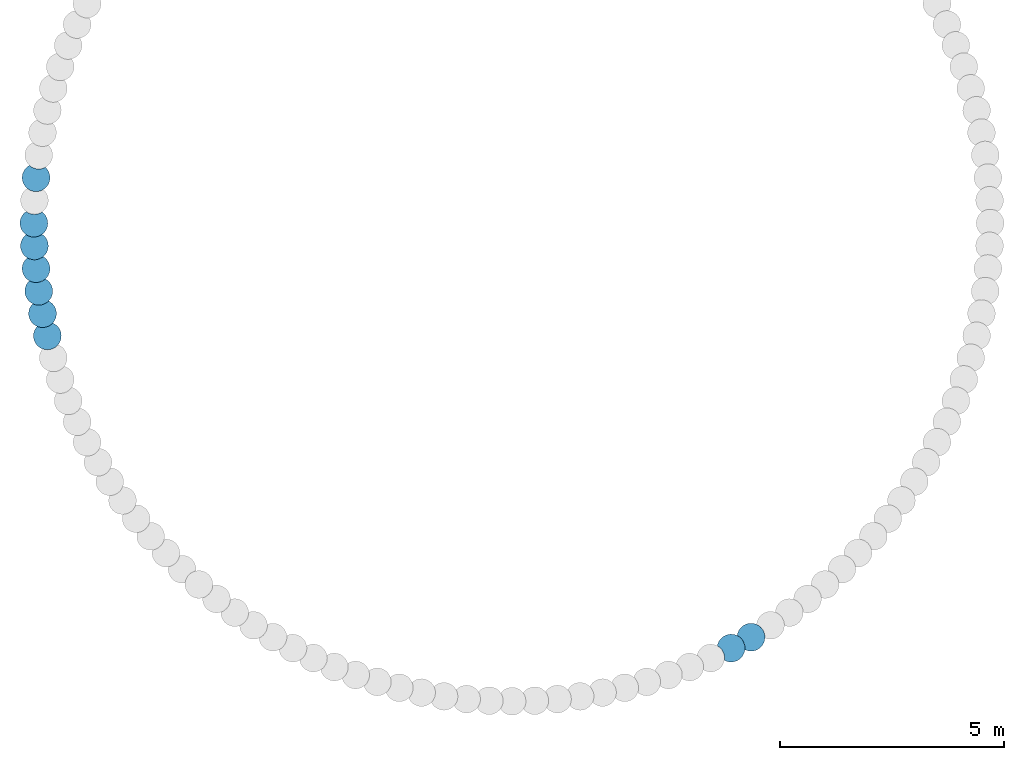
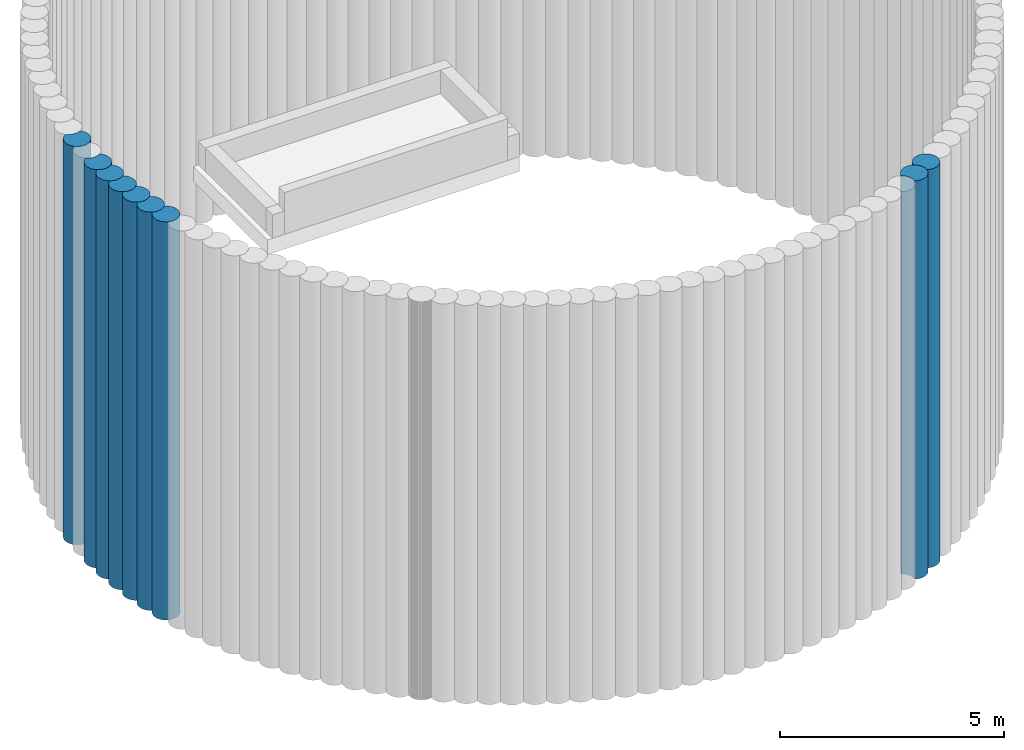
# One storey, part 5 of 16: 9 slabs.
"""IFC2X3 building model written with IfcOpenShell, lengths in centimetres."""

from ifc_helpers import new_model, entity, si_unit, converted_unit, derived_unit, direction, frame, frame_2d, origin, place, context, subcontext, project, spatial, polyline, circle_curve, parameter, trimmed, segment, composite_curve, outline, extrude, material, element, save


model = new_model("IFC2X3")

# Units and contexts
model_context = context("Model", 3, precision=0.001, world=origin(), true_north=direction((6.12303176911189e-17, 1.0)))
body_context = subcontext(model_context, "Body", "Model", "MODEL_VIEW")
ifc_project = project(units=[si_unit("LENGTHUNIT", "METRE", prefix="CENTI"), si_unit("AREAUNIT", "SQUARE_METRE"), si_unit("VOLUMEUNIT", "CUBIC_METRE"), converted_unit("PLANEANGLEUNIT", "DEGREE", entity("IfcRatioMeasure", 0.0174532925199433), si_unit("PLANEANGLEUNIT", "RADIAN"), dimensions=[0, 0, 0, 0, 0, 0, 0]), si_unit("MASSUNIT", "GRAM", prefix="KILO"), derived_unit("MASSDENSITYUNIT", [(si_unit("MASSUNIT", "GRAM", prefix="KILO"), 1), (si_unit("LENGTHUNIT", "METRE"), -3)]), si_unit("TIMEUNIT", "SECOND"), si_unit("FREQUENCYUNIT", "HERTZ"), si_unit("THERMODYNAMICTEMPERATUREUNIT", "DEGREE_CELSIUS"), derived_unit("THERMALTRANSMITTANCEUNIT", [(si_unit("MASSUNIT", "GRAM", prefix="KILO"), 1), (si_unit("THERMODYNAMICTEMPERATUREUNIT", "KELVIN"), -1), (si_unit("TIMEUNIT", "SECOND"), -3)]), derived_unit("VOLUMETRICFLOWRATEUNIT", [(si_unit("LENGTHUNIT", "METRE"), 3), (si_unit("TIMEUNIT", "SECOND"), -1)]), si_unit("ELECTRICCURRENTUNIT", "AMPERE"), si_unit("ELECTRICVOLTAGEUNIT", "VOLT"), si_unit("POWERUNIT", "WATT"), si_unit("FORCEUNIT", "NEWTON", prefix="KILO"), si_unit("ILLUMINANCEUNIT", "LUX"), si_unit("LUMINOUSFLUXUNIT", "LUMEN"), si_unit("LUMINOUSINTENSITYUNIT", "CANDELA"), derived_unit("USERDEFINED", [(si_unit("MASSUNIT", "GRAM", prefix="KILO"), -1), (si_unit("LENGTHUNIT", "METRE"), -2), (si_unit("TIMEUNIT", "SECOND"), 3), (si_unit("LUMINOUSFLUXUNIT", "LUMEN"), 1)]), derived_unit("LINEARVELOCITYUNIT", [(si_unit("LENGTHUNIT", "METRE"), 1), (si_unit("TIMEUNIT", "SECOND"), -1)]), si_unit("PRESSUREUNIT", "PASCAL"), derived_unit("USERDEFINED", [(si_unit("LENGTHUNIT", "METRE"), -2), (si_unit("MASSUNIT", "GRAM", prefix="KILO"), 1), (si_unit("TIMEUNIT", "SECOND"), -2)])], contexts=[model_context])

# Site, building, storey
site_placement = place(None, origin())
site = spatial("IfcSite", under=ifc_project, at=site_placement, Name="Default", CompositionType="ELEMENT")
building_placement = place(site_placement, origin())
building = spatial("IfcBuilding", under=site, at=building_placement, CompositionType="ELEMENT")
storey_placement = place(building_placement, frame((0.0, 0.0, -984.0)))
storey = spatial("IfcBuildingStorey", under=building, at=storey_placement, Name="Niveau Fond de fosse", CompositionType="ELEMENT", Elevation=-984.000000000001)

# Slabs
ifc_material = material(Name="Maçonnerie - Béton coulé sur place")
slab_1_placement = place(storey_placement, origin())
element("IfcSlab", 1, at=slab_1_placement, inside=storey, material=ifc_material, Name="Pieu béton - JBTP:600mm 2", ObjectType="Pieu béton - JBTP:600mm 2", PredefinedType="BASESLAB", context=body_context, shape_type="SweptSolid", body=[
    extrude(outline(composite_curve([segment(trimmed(circle_curve(frame_2d((1.18354648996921, -14.7318661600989), x_axis=(1.0, 0.0)), 30.9999999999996), [parameter(180.0)], [parameter(207.444291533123)], True, "PARAMETER"), True, "CONTINUOUS"), segment(trimmed(circle_curve(frame_2d((-22.2236636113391, -59.7464676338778), x_axis=(0.998867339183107, -0.0475819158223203)), 30.9999999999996), [parameter(30.1715642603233)], [parameter(100.334884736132)], True, "PARAMETER"), False, "CONTINUOUS"), segment(trimmed(circle_curve(frame_2d((1.18354648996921, -14.7318661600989), x_axis=(1.0, 0.0)), 30.9999999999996), [parameter(277.607612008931)], [parameter(4.07110999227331e-13)], True, "PARAMETER"), True, "CONTINUOUS"), segment(polyline([(32.1835464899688, -14.731866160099), (31.706841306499, -9.31628922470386)]), True, "CONTINUOUS"), segment(polyline([(31.706841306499, -9.31628922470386), (30.2921459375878, -4.069341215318)]), True, "CONTINUOUS"), segment(polyline([(30.2921459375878, -4.069341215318), (27.9815446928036, 0.850722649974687)]), True, "CONTINUOUS"), segment(polyline([(27.9815446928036, 0.850722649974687), (24.8625540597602, 5.27574740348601)]), True, "CONTINUOUS"), segment(polyline([(24.8625540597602, 5.27574740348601), (21.0196407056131, 9.09100869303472)]), True, "CONTINUOUS"), segment(polyline([(21.0196407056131, 9.09100869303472), (16.5713553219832, 12.1793831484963)]), True, "CONTINUOUS"), segment(polyline([(16.5713553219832, 12.1793831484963), (11.6531207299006, 14.4466878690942)]), True, "CONTINUOUS"), segment(polyline([(11.6531207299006, 14.4466878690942), (6.41465294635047, 15.8235838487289)]), True, "CONTINUOUS"), segment(polyline([(6.41465294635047, 15.8235838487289), (1.01547753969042, 16.2676782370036)]), True, "CONTINUOUS"), segment(polyline([(1.01547753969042, 16.2676782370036), (-4.38028118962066, 15.7646561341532)]), True, "CONTINUOUS"), segment(polyline([(-4.38028118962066, 15.7646561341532), (-9.56967916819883, 14.3433490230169)]), True, "CONTINUOUS"), segment(polyline([(-9.56967916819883, 14.3433490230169), (-14.4353628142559, 12.0459170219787)]), True, "CONTINUOUS"), segment(polyline([(-14.4353628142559, 12.0459170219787), (-18.8300295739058, 8.94210209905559)]), True, "CONTINUOUS"), segment(polyline([(-18.8300295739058, 8.94210209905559), (-22.6217091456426, 5.12536940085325)]), True, "CONTINUOUS"), segment(polyline([(-22.6217091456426, 5.12536940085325), (-25.6964633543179, 0.710448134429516)]), True, "CONTINUOUS"), segment(polyline([(-25.6964633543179, 0.710448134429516), (-27.9617477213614, -4.17005640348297)]), True, "CONTINUOUS"), segment(polyline([(-27.9617477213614, -4.17005640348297), (-29.3490361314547, -9.3689007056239)]), True, "CONTINUOUS"), segment(polyline([(-29.3490361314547, -9.3689007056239), (-29.8164535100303, -14.7318661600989)]), True, "CONTINUOUS")], self_intersect=False)), frame((496.306493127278, -934.968234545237, -300.0), z_axis=(0.0, 0.0, 1.0), x_axis=(0.802641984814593, -0.596461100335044, 0.0)), (0.0, 0.0, 1.0), 1084.0),
])
slab_2_placement = place(storey_placement, origin())
element("IfcSlab", 2, at=slab_2_placement, inside=storey, material=ifc_material, Name="Pieu béton - JBTP:600mm 2", ObjectType="Pieu béton - JBTP:600mm 2", PredefinedType="BASESLAB", context=body_context, shape_type="SweptSolid", body=[
    extrude(outline(composite_curve([segment(trimmed(circle_curve(frame_2d((1.18354648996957, -14.731866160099), x_axis=(1.0, 0.0)), 30.9999999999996), [parameter(180.0)], [parameter(207.444291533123)], True, "PARAMETER"), True, "CONTINUOUS"), segment(trimmed(circle_curve(frame_2d((-22.2236636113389, -59.7464676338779), x_axis=(0.998867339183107, -0.0475819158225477)), 30.9999999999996), [parameter(30.1715642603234)], [parameter(100.334884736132)], True, "PARAMETER"), False, "CONTINUOUS"), segment(trimmed(circle_curve(frame_2d((1.18354648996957, -14.731866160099), x_axis=(1.0, 0.0)), 30.9999999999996), [parameter(277.607612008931)], [parameter(4.07110999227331e-13)], True, "PARAMETER"), True, "CONTINUOUS"), segment(polyline([(32.183546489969, -14.731866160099), (31.7068413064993, -9.31628922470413)]), True, "CONTINUOUS"), segment(polyline([(31.7068413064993, -9.31628922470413), (30.2921459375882, -4.06934121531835)]), True, "CONTINUOUS"), segment(polyline([(30.2921459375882, -4.06934121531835), (27.9815446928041, 0.850722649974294)]), True, "CONTINUOUS"), segment(polyline([(27.9815446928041, 0.850722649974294), (24.8625540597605, 5.27574740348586)]), True, "CONTINUOUS"), segment(polyline([(24.8625540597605, 5.27574740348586), (21.0196407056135, 9.09100869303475)]), True, "CONTINUOUS"), segment(polyline([(21.0196407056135, 9.09100869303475), (16.5713553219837, 12.1793831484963)]), True, "CONTINUOUS"), segment(polyline([(16.5713553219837, 12.1793831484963), (11.6531207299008, 14.4466878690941)]), True, "CONTINUOUS"), segment(polyline([(11.6531207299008, 14.4466878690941), (6.41465294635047, 15.8235838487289)]), True, "CONTINUOUS"), segment(polyline([(6.41465294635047, 15.8235838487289), (1.01547753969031, 16.2676782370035)]), True, "CONTINUOUS"), segment(polyline([(1.01547753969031, 16.2676782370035), (-4.38028118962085, 15.764656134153)]), True, "CONTINUOUS"), segment(polyline([(-4.38028118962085, 15.764656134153), (-9.56967916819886, 14.3433490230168)]), True, "CONTINUOUS"), segment(polyline([(-9.56967916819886, 14.3433490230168), (-14.4353628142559, 12.0459170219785)]), True, "CONTINUOUS"), segment(polyline([(-14.4353628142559, 12.0459170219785), (-18.8300295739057, 8.94210209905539)]), True, "CONTINUOUS"), segment(polyline([(-18.8300295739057, 8.94210209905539), (-22.6217091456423, 5.12536940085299)]), True, "CONTINUOUS"), segment(polyline([(-22.6217091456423, 5.12536940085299), (-25.6964633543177, 0.710448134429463)]), True, "CONTINUOUS"), segment(polyline([(-25.6964633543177, 0.710448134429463), (-27.9617477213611, -4.17005640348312)]), True, "CONTINUOUS"), segment(polyline([(-27.9617477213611, -4.17005640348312), (-29.3490361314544, -9.36890070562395)]), True, "CONTINUOUS"), segment(polyline([(-29.3490361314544, -9.36890070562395), (-29.8164535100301, -14.7318661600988)]), True, "CONTINUOUS")], self_intersect=False)), frame((540.231926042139, -910.294018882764, -300.0), z_axis=(0.0, 0.0, 1.0), x_axis=(0.83011362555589, -0.557594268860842, 0.0)), (0.0, 0.0, 1.0), 1084.0),
])
slab_3_placement = place(storey_placement, origin())
element("IfcSlab", 3, at=slab_3_placement, inside=storey, material=ifc_material, Name="Pieu béton - JBTP:600mm 2", ObjectType="Pieu béton - JBTP:600mm 2", PredefinedType="BASESLAB", context=body_context, shape_type="SweptSolid", body=[
    extrude(outline(composite_curve([segment(trimmed(circle_curve(frame_2d((1.18354648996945, -14.7318661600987), x_axis=(1.0, 0.0)), 30.9999999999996), [parameter(180.0)], [parameter(207.444291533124)], True, "PARAMETER"), True, "CONTINUOUS"), segment(trimmed(circle_curve(frame_2d((-22.2236636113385, -59.7464676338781), x_axis=(0.998867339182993, -0.0475819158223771)), 30.9999999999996), [parameter(30.1715642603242)], [parameter(100.334884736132)], True, "PARAMETER"), False, "CONTINUOUS"), segment(trimmed(circle_curve(frame_2d((1.18354648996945, -14.7318661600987), x_axis=(1.0, 0.0)), 30.9999999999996), [parameter(277.607612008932)], [parameter(4.07110999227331e-13)], True, "PARAMETER"), True, "CONTINUOUS"), segment(polyline([(32.183546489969, -14.7318661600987), (31.7068413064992, -9.31628922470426)]), True, "CONTINUOUS"), segment(polyline([(31.7068413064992, -9.31628922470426), (30.2921459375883, -4.06934121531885)]), True, "CONTINUOUS"), segment(polyline([(30.2921459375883, -4.06934121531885), (27.9815446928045, 0.850722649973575)]), True, "CONTINUOUS"), segment(polyline([(27.9815446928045, 0.850722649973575), (24.8625540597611, 5.27574740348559)]), True, "CONTINUOUS"), segment(polyline([(24.8625540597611, 5.27574740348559), (21.0196407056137, 9.09100869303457)]), True, "CONTINUOUS"), segment(polyline([(21.0196407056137, 9.09100869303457), (16.5713553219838, 12.1793831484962)]), True, "CONTINUOUS"), segment(polyline([(16.5713553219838, 12.1793831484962), (11.6531207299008, 14.4466878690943)]), True, "CONTINUOUS"), segment(polyline([(11.6531207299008, 14.4466878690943), (6.41465294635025, 15.8235838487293)]), True, "CONTINUOUS"), segment(polyline([(6.41465294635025, 15.8235838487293), (1.01547753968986, 16.2676782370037)]), True, "CONTINUOUS"), segment(polyline([(1.01547753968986, 16.2676782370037), (-4.38028118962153, 15.7646561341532)]), True, "CONTINUOUS"), segment(polyline([(-4.38028118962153, 15.7646561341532), (-9.56967916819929, 14.3433490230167)]), True, "CONTINUOUS"), segment(polyline([(-9.56967916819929, 14.3433490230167), (-14.4353628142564, 12.0459170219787)]), True, "CONTINUOUS"), segment(polyline([(-14.4353628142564, 12.0459170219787), (-18.8300295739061, 8.94210209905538)]), True, "CONTINUOUS"), segment(polyline([(-18.8300295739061, 8.94210209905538), (-22.6217091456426, 5.12536940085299)]), True, "CONTINUOUS"), segment(polyline([(-22.6217091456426, 5.12536940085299), (-25.696463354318, 0.710448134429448)]), True, "CONTINUOUS"), segment(polyline([(-25.696463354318, 0.710448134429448), (-27.9617477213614, -4.17005640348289)]), True, "CONTINUOUS"), segment(polyline([(-27.9617477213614, -4.17005640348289), (-29.3490361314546, -9.36890070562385)]), True, "CONTINUOUS"), segment(polyline([(-29.3490361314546, -9.36890070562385), (-29.8164535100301, -14.7318661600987)]), True, "CONTINUOUS")], self_intersect=False)), frame((-1054.86887853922, 87.962400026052, -300.0), z_axis=(0.0, 0.0, 1.0), x_axis=(-0.935716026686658, -0.352754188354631, 0.0)), (0.0, 0.0, 1.0), 1084.0),
])
slab_4_placement = place(storey_placement, origin())
element("IfcSlab", 4, at=slab_4_placement, inside=storey, material=ifc_material, Name="Pieu béton - JBTP:600mm 2", ObjectType="Pieu béton - JBTP:600mm 2", PredefinedType="BASESLAB", context=body_context, shape_type="SweptSolid", body=[
    extrude(outline(composite_curve([segment(trimmed(circle_curve(frame_2d((1.18354648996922, -14.7318661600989), x_axis=(1.0, 0.0)), 30.9999999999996), [parameter(180.0)], [parameter(207.444291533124)], True, "PARAMETER"), True, "CONTINUOUS"), segment(trimmed(circle_curve(frame_2d((-22.2236636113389, -59.7464676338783), x_axis=(0.998867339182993, -0.047581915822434)), 30.9999999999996), [parameter(30.1715642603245)], [parameter(100.334884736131)], True, "PARAMETER"), False, "CONTINUOUS"), segment(trimmed(circle_curve(frame_2d((1.18354648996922, -14.7318661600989), x_axis=(1.0, 0.0)), 30.9999999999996), [parameter(277.607612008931)], [parameter(4.07110999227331e-13)], True, "PARAMETER"), True, "CONTINUOUS"), segment(polyline([(32.1835464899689, -14.7318661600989), (31.706841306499, -9.31628922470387)]), True, "CONTINUOUS"), segment(polyline([(31.706841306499, -9.31628922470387), (30.292145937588, -4.06934121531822)]), True, "CONTINUOUS"), segment(polyline([(30.292145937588, -4.06934121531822), (27.9815446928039, 0.850722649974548)]), True, "CONTINUOUS"), segment(polyline([(27.9815446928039, 0.850722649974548), (24.8625540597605, 5.27574740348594)]), True, "CONTINUOUS"), segment(polyline([(24.8625540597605, 5.27574740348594), (21.0196407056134, 9.0910086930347)]), True, "CONTINUOUS"), segment(polyline([(21.0196407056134, 9.0910086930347), (16.5713553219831, 12.1793831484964)]), True, "CONTINUOUS"), segment(polyline([(16.5713553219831, 12.1793831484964), (11.6531207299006, 14.4466878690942)]), True, "CONTINUOUS"), segment(polyline([(11.6531207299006, 14.4466878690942), (6.41465294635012, 15.823583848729)]), True, "CONTINUOUS"), segment(polyline([(6.41465294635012, 15.823583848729), (1.01547753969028, 16.2676782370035)]), True, "CONTINUOUS"), segment(polyline([(1.01547753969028, 16.2676782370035), (-4.38028118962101, 15.7646561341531)]), True, "CONTINUOUS"), segment(polyline([(-4.38028118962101, 15.7646561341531), (-9.5696791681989, 14.3433490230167)]), True, "CONTINUOUS"), segment(polyline([(-9.5696791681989, 14.3433490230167), (-14.4353628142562, 12.0459170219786)]), True, "CONTINUOUS"), segment(polyline([(-14.4353628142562, 12.0459170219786), (-18.8300295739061, 8.94210209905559)]), True, "CONTINUOUS"), segment(polyline([(-18.8300295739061, 8.94210209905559), (-22.6217091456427, 5.12536940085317)]), True, "CONTINUOUS"), segment(polyline([(-22.6217091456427, 5.12536940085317), (-25.6964633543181, 0.710448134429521)]), True, "CONTINUOUS"), segment(polyline([(-25.6964633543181, 0.710448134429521), (-27.9617477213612, -4.17005640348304)]), True, "CONTINUOUS"), segment(polyline([(-27.9617477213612, -4.17005640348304), (-29.3490361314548, -9.36890070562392)]), True, "CONTINUOUS"), segment(polyline([(-29.3490361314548, -9.36890070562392), (-29.8164535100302, -14.7318661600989)]), True, "CONTINUOUS")], self_intersect=False)), frame((-1058.453708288, -12.7075623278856, -300.0), z_axis=(0.0, 0.0, 1.0), x_axis=(-0.897947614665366, -0.440102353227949, 0.0)), (0.0, 0.0, 1.0), 1084.0),
])
slab_5_placement = place(storey_placement, origin())
element("IfcSlab", 5, at=slab_5_placement, inside=storey, material=ifc_material, Name="Pieu béton - JBTP:600mm 2", ObjectType="Pieu béton - JBTP:600mm 2", PredefinedType="BASESLAB", context=body_context, shape_type="SweptSolid", body=[
    extrude(outline(composite_curve([segment(trimmed(circle_curve(frame_2d((1.18354648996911, -14.731866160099), x_axis=(1.0, 0.0)), 30.9999999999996), [parameter(180.0)], [parameter(207.444291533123)], True, "PARAMETER"), True, "CONTINUOUS"), segment(trimmed(circle_curve(frame_2d((-22.223663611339, -59.7464676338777), x_axis=(0.998867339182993, -0.047581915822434)), 30.9999999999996), [parameter(30.1715642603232)], [parameter(100.334884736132)], True, "PARAMETER"), False, "CONTINUOUS"), segment(trimmed(circle_curve(frame_2d((1.18354648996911, -14.731866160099), x_axis=(1.0, 0.0)), 30.9999999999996), [parameter(277.607612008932)], [parameter(4.07110999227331e-13)], True, "PARAMETER"), True, "CONTINUOUS"), segment(polyline([(32.1835464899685, -14.7318661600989), (31.7068413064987, -9.31628922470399)]), True, "CONTINUOUS"), segment(polyline([(31.7068413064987, -9.31628922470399), (30.2921459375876, -4.06934121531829)]), True, "CONTINUOUS"), segment(polyline([(30.2921459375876, -4.06934121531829), (27.9815446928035, 0.850722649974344)]), True, "CONTINUOUS"), segment(polyline([(27.9815446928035, 0.850722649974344), (24.8625540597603, 5.27574740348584)]), True, "CONTINUOUS"), segment(polyline([(24.8625540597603, 5.27574740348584), (21.0196407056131, 9.09100869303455)]), True, "CONTINUOUS"), segment(polyline([(21.0196407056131, 9.09100869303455), (16.5713553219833, 12.1793831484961)]), True, "CONTINUOUS"), segment(polyline([(16.5713553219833, 12.1793831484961), (11.6531207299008, 14.446687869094)]), True, "CONTINUOUS"), segment(polyline([(11.6531207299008, 14.446687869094), (6.41465294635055, 15.8235838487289)]), True, "CONTINUOUS"), segment(polyline([(6.41465294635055, 15.8235838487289), (1.01547753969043, 16.2676782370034)]), True, "CONTINUOUS"), segment(polyline([(1.01547753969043, 16.2676782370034), (-4.3802811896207, 15.7646561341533)]), True, "CONTINUOUS"), segment(polyline([(-4.3802811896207, 15.7646561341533), (-9.56967916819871, 14.3433490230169)]), True, "CONTINUOUS"), segment(polyline([(-9.56967916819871, 14.3433490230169), (-14.4353628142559, 12.0459170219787)]), True, "CONTINUOUS"), segment(polyline([(-14.4353628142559, 12.0459170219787), (-18.8300295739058, 8.94210209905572)]), True, "CONTINUOUS"), segment(polyline([(-18.8300295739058, 8.94210209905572), (-22.6217091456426, 5.12536940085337)]), True, "CONTINUOUS"), segment(polyline([(-22.6217091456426, 5.12536940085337), (-25.6964633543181, 0.710448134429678)]), True, "CONTINUOUS"), segment(polyline([(-25.6964633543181, 0.710448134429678), (-27.9617477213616, -4.17005640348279)]), True, "CONTINUOUS"), segment(polyline([(-27.9617477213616, -4.17005640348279), (-29.3490361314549, -9.36890070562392)]), True, "CONTINUOUS"), segment(polyline([(-29.3490361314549, -9.36890070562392), (-29.8164535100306, -14.7318661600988)]), True, "CONTINUOUS")], self_intersect=False)), frame((-1056.65018908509, -63.0564242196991, -300.0), z_axis=(0.0, 0.0, 1.0), x_axis=(-0.875989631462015, -0.482329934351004, 0.0)), (0.0, 0.0, 1.0), 1084.0),
])
slab_6_placement = place(storey_placement, origin())
element("IfcSlab", 6, at=slab_6_placement, inside=storey, material=ifc_material, Name="Pieu béton - JBTP:600mm 2", ObjectType="Pieu béton - JBTP:600mm 2", PredefinedType="BASESLAB", context=body_context, shape_type="SweptSolid", body=[
    extrude(outline(composite_curve([segment(trimmed(circle_curve(frame_2d((1.18354648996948, -14.7318661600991), x_axis=(1.0, 0.0)), 30.9999999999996), [parameter(180.0)], [parameter(207.444291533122)], True, "PARAMETER"), True, "CONTINUOUS"), segment(trimmed(circle_curve(frame_2d((-22.2236636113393, -59.7464676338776), x_axis=(0.998867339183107, -0.0475819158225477)), 30.9999999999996), [parameter(30.1715642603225)], [parameter(100.334884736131)], True, "PARAMETER"), False, "CONTINUOUS"), segment(trimmed(circle_curve(frame_2d((1.18354648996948, -14.7318661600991), x_axis=(1.0, 0.0)), 30.9999999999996), [parameter(277.607612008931)], [parameter(4.07110999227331e-13)], True, "PARAMETER"), True, "CONTINUOUS"), segment(polyline([(32.183546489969, -14.7318661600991), (31.7068413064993, -9.31628922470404)]), True, "CONTINUOUS"), segment(polyline([(31.7068413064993, -9.31628922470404), (30.2921459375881, -4.06934121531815)]), True, "CONTINUOUS"), segment(polyline([(30.2921459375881, -4.06934121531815), (27.9815446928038, 0.850722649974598)]), True, "CONTINUOUS"), segment(polyline([(27.9815446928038, 0.850722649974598), (24.8625540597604, 5.275747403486)]), True, "CONTINUOUS"), segment(polyline([(24.8625540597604, 5.275747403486), (21.0196407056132, 9.09100869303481)]), True, "CONTINUOUS"), segment(polyline([(21.0196407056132, 9.09100869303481), (16.5713553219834, 12.1793831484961)]), True, "CONTINUOUS"), segment(polyline([(16.5713553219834, 12.1793831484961), (11.6531207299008, 14.4466878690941)]), True, "CONTINUOUS"), segment(polyline([(11.6531207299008, 14.4466878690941), (6.41465294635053, 15.8235838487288)]), True, "CONTINUOUS"), segment(polyline([(6.41465294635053, 15.8235838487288), (1.01547753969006, 16.2676782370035)]), True, "CONTINUOUS"), segment(polyline([(1.01547753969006, 16.2676782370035), (-4.38028118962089, 15.7646561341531)]), True, "CONTINUOUS"), segment(polyline([(-4.38028118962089, 15.7646561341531), (-9.56967916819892, 14.3433490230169)]), True, "CONTINUOUS"), segment(polyline([(-9.56967916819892, 14.3433490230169), (-14.4353628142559, 12.0459170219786)]), True, "CONTINUOUS"), segment(polyline([(-14.4353628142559, 12.0459170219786), (-18.8300295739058, 8.94210209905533)]), True, "CONTINUOUS"), segment(polyline([(-18.8300295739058, 8.94210209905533), (-22.6217091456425, 5.12536940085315)]), True, "CONTINUOUS"), segment(polyline([(-22.6217091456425, 5.12536940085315), (-25.6964633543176, 0.710448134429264)]), True, "CONTINUOUS"), segment(polyline([(-25.6964633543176, 0.710448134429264), (-27.9617477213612, -4.17005640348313)]), True, "CONTINUOUS"), segment(polyline([(-27.9617477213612, -4.17005640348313), (-29.3490361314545, -9.36890070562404)]), True, "CONTINUOUS"), segment(polyline([(-29.3490361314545, -9.36890070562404), (-29.81645351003, -14.731866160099)]), True, "CONTINUOUS")], self_intersect=False)), frame((-1052.45301734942, -113.262443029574, -300.0), z_axis=(0.0, 0.0, 1.0), x_axis=(-0.852047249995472, -0.523464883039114, 0.0)), (0.0, 0.0, 1.0), 1084.0),
])
slab_7_placement = place(storey_placement, origin())
element("IfcSlab", 7, at=slab_7_placement, inside=storey, material=ifc_material, Name="Pieu béton - JBTP:600mm 2", ObjectType="Pieu béton - JBTP:600mm 2", PredefinedType="BASESLAB", context=body_context, shape_type="SweptSolid", body=[
    extrude(outline(composite_curve([segment(trimmed(circle_curve(frame_2d((1.18354648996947, -14.731866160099), x_axis=(1.0, 0.0)), 30.9999999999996), [parameter(180.0)], [parameter(207.444291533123)], True, "PARAMETER"), True, "CONTINUOUS"), segment(trimmed(circle_curve(frame_2d((-22.2236636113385, -59.7464676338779), x_axis=(0.998867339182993, -0.047581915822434)), 30.9999999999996), [parameter(30.1715642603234)], [parameter(100.334884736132)], True, "PARAMETER"), False, "CONTINUOUS"), segment(trimmed(circle_curve(frame_2d((1.18354648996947, -14.731866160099), x_axis=(1.0, 0.0)), 30.9999999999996), [parameter(277.607612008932)], [parameter(4.07110999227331e-13)], True, "PARAMETER"), True, "CONTINUOUS"), segment(polyline([(32.183546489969, -14.7318661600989), (31.7068413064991, -9.31628922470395)]), True, "CONTINUOUS"), segment(polyline([(31.7068413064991, -9.31628922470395), (30.292145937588, -4.06934121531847)]), True, "CONTINUOUS"), segment(polyline([(30.292145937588, -4.06934121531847), (27.9815446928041, 0.850722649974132)]), True, "CONTINUOUS"), segment(polyline([(27.9815446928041, 0.850722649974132), (24.8625540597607, 5.27574740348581)]), True, "CONTINUOUS"), segment(polyline([(24.8625540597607, 5.27574740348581), (21.0196407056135, 9.09100869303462)]), True, "CONTINUOUS"), segment(polyline([(21.0196407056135, 9.09100869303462), (16.5713553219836, 12.1793831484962)]), True, "CONTINUOUS"), segment(polyline([(16.5713553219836, 12.1793831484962), (11.6531207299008, 14.4466878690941)]), True, "CONTINUOUS"), segment(polyline([(11.6531207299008, 14.4466878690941), (6.41465294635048, 15.8235838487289)]), True, "CONTINUOUS"), segment(polyline([(6.41465294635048, 15.8235838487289), (1.01547753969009, 16.2676782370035)]), True, "CONTINUOUS"), segment(polyline([(1.01547753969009, 16.2676782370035), (-4.38028118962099, 15.764656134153)]), True, "CONTINUOUS"), segment(polyline([(-4.38028118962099, 15.764656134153), (-9.5696791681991, 14.3433490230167)]), True, "CONTINUOUS"), segment(polyline([(-9.5696791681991, 14.3433490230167), (-14.4353628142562, 12.0459170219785)]), True, "CONTINUOUS"), segment(polyline([(-14.4353628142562, 12.0459170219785), (-18.8300295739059, 8.94210209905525)]), True, "CONTINUOUS"), segment(polyline([(-18.8300295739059, 8.94210209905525), (-22.6217091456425, 5.12536940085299)]), True, "CONTINUOUS"), segment(polyline([(-22.6217091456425, 5.12536940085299), (-25.6964633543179, 0.710448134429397)]), True, "CONTINUOUS"), segment(polyline([(-25.6964633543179, 0.710448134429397), (-27.9617477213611, -4.17005640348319)]), True, "CONTINUOUS"), segment(polyline([(-27.9617477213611, -4.17005640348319), (-29.3490361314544, -9.36890070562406)]), True, "CONTINUOUS"), segment(polyline([(-29.3490361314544, -9.36890070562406), (-29.8164535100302, -14.7318661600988)]), True, "CONTINUOUS")], self_intersect=False)), frame((-1045.87170102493, -163.211885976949, -300.0), z_axis=(0.0, 0.0, 1.0), x_axis=(-0.826174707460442, -0.563414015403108, 0.0)), (0.0, 0.0, 1.0), 1084.0),
])
slab_8_placement = place(storey_placement, origin())
element("IfcSlab", 8, at=slab_8_placement, inside=storey, material=ifc_material, Name="Pieu béton - JBTP:600mm 2", ObjectType="Pieu béton - JBTP:600mm 2", PredefinedType="BASESLAB", context=body_context, shape_type="SweptSolid", body=[
    extrude(outline(composite_curve([segment(trimmed(circle_curve(frame_2d((1.18354648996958, -14.7318661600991), x_axis=(1.0, 0.0)), 30.9999999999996), [parameter(180.0)], [parameter(207.444291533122)], True, "PARAMETER"), True, "CONTINUOUS"), segment(trimmed(circle_curve(frame_2d((-22.2236636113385, -59.7464676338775), x_axis=(0.998867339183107, -0.0475819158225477)), 30.9999999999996), [parameter(30.1715642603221)], [parameter(100.334884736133)], True, "PARAMETER"), False, "CONTINUOUS"), segment(trimmed(circle_curve(frame_2d((1.18354648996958, -14.7318661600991), x_axis=(1.0, 0.0)), 30.9999999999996), [parameter(277.607612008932)], [parameter(4.07110999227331e-13)], True, "PARAMETER"), True, "CONTINUOUS"), segment(polyline([(32.183546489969, -14.731866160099), (31.7068413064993, -9.31628922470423)]), True, "CONTINUOUS"), segment(polyline([(31.7068413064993, -9.31628922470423), (30.2921459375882, -4.06934121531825)]), True, "CONTINUOUS"), segment(polyline([(30.2921459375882, -4.06934121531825), (27.9815446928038, 0.850722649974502)]), True, "CONTINUOUS"), segment(polyline([(27.9815446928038, 0.850722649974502), (24.8625540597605, 5.27574740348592)]), True, "CONTINUOUS"), segment(polyline([(24.8625540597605, 5.27574740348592), (21.0196407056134, 9.09100869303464)]), True, "CONTINUOUS"), segment(polyline([(21.0196407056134, 9.09100869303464), (16.5713553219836, 12.1793831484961)]), True, "CONTINUOUS"), segment(polyline([(16.5713553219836, 12.1793831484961), (11.6531207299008, 14.446687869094)]), True, "CONTINUOUS"), segment(polyline([(11.6531207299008, 14.446687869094), (6.41465294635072, 15.8235838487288)]), True, "CONTINUOUS"), segment(polyline([(6.41465294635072, 15.8235838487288), (1.01547753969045, 16.2676782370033)]), True, "CONTINUOUS"), segment(polyline([(1.01547753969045, 16.2676782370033), (-4.38028118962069, 15.764656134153)]), True, "CONTINUOUS"), segment(polyline([(-4.38028118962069, 15.764656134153), (-9.56967916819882, 14.3433490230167)]), True, "CONTINUOUS"), segment(polyline([(-9.56967916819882, 14.3433490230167), (-14.4353628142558, 12.0459170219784)]), True, "CONTINUOUS"), segment(polyline([(-14.4353628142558, 12.0459170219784), (-18.8300295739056, 8.94210209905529)]), True, "CONTINUOUS"), segment(polyline([(-18.8300295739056, 8.94210209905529), (-22.6217091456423, 5.12536940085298)]), True, "CONTINUOUS"), segment(polyline([(-22.6217091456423, 5.12536940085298), (-25.6964633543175, 0.7104481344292)]), True, "CONTINUOUS"), segment(polyline([(-25.6964633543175, 0.7104481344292), (-27.9617477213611, -4.17005640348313)]), True, "CONTINUOUS"), segment(polyline([(-27.9617477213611, -4.17005640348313), (-29.3490361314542, -9.36890070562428)]), True, "CONTINUOUS"), segment(polyline([(-29.3490361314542, -9.36890070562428), (-29.8164535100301, -14.7318661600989)]), True, "CONTINUOUS")], self_intersect=False)), frame((-1036.92114890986, -212.791601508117, -300.0), z_axis=(0.0, 0.0, 1.0), x_axis=(-0.798430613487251, -0.602086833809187, 0.0)), (0.0, 0.0, 1.0), 1084.0),
])
slab_9_placement = place(storey_placement, origin())
element("IfcSlab", 9, at=slab_9_placement, inside=storey, material=ifc_material, Name="Pieu béton - JBTP:600mm 2", ObjectType="Pieu béton - JBTP:600mm 2", PredefinedType="BASESLAB", context=body_context, shape_type="SweptSolid", body=[
    extrude(outline(composite_curve([segment(trimmed(circle_curve(frame_2d((1.18354648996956, -14.7318661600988), x_axis=(1.0, 0.0)), 30.9999999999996), [parameter(180.0)], [parameter(207.444291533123)], True, "PARAMETER"), True, "CONTINUOUS"), segment(trimmed(circle_curve(frame_2d((-22.2236636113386, -59.7464676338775), x_axis=(0.998867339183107, -0.047581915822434)), 30.9999999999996), [parameter(30.1715642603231)], [parameter(100.334884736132)], True, "PARAMETER"), False, "CONTINUOUS"), segment(trimmed(circle_curve(frame_2d((1.18354648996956, -14.7318661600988), x_axis=(1.0, 0.0)), 30.9999999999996), [parameter(277.607612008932)], [parameter(4.07110999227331e-13)], True, "PARAMETER"), True, "CONTINUOUS"), segment(polyline([(32.1835464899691, -14.7318661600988), (31.7068413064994, -9.31628922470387)]), True, "CONTINUOUS"), segment(polyline([(31.7068413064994, -9.31628922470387), (30.2921459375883, -4.06934121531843)]), True, "CONTINUOUS"), segment(polyline([(30.2921459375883, -4.06934121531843), (27.9815446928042, 0.850722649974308)]), True, "CONTINUOUS"), segment(polyline([(27.9815446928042, 0.850722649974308), (24.8625540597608, 5.27574740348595)]), True, "CONTINUOUS"), segment(polyline([(24.8625540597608, 5.27574740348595), (21.0196407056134, 9.09100869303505)]), True, "CONTINUOUS"), segment(polyline([(21.0196407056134, 9.09100869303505), (16.5713553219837, 12.1793831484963)]), True, "CONTINUOUS"), segment(polyline([(16.5713553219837, 12.1793831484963), (11.6531207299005, 14.4466878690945)]), True, "CONTINUOUS"), segment(polyline([(11.6531207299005, 14.4466878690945), (6.4146529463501, 15.8235838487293)]), True, "CONTINUOUS"), segment(polyline([(6.4146529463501, 15.8235838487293), (1.01547753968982, 16.2676782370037)]), True, "CONTINUOUS"), segment(polyline([(1.01547753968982, 16.2676782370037), (-4.38028118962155, 15.7646561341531)]), True, "CONTINUOUS"), segment(polyline([(-4.38028118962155, 15.7646561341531), (-9.56967916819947, 14.3433490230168)]), True, "CONTINUOUS"), segment(polyline([(-9.56967916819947, 14.3433490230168), (-14.4353628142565, 12.0459170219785)]), True, "CONTINUOUS"), segment(polyline([(-14.4353628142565, 12.0459170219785), (-18.8300295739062, 8.9421020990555)]), True, "CONTINUOUS"), segment(polyline([(-18.8300295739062, 8.9421020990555), (-22.6217091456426, 5.12536940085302)]), True, "CONTINUOUS"), segment(polyline([(-22.6217091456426, 5.12536940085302), (-25.6964633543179, 0.710448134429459)]), True, "CONTINUOUS"), segment(polyline([(-25.6964633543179, 0.710448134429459), (-27.9617477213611, -4.17005640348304)]), True, "CONTINUOUS"), segment(polyline([(-27.9617477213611, -4.17005640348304), (-29.3490361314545, -9.36890070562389)]), True, "CONTINUOUS"), segment(polyline([(-29.3490361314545, -9.36890070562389), (-29.8164535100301, -14.7318661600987)]), True, "CONTINUOUS")], self_intersect=False)), frame((-1025.62163688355, -261.889275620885, -300.0), z_axis=(0.0, 0.0, 1.0), x_axis=(-0.768877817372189, -0.639395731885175, 0.0)), (0.0, 0.0, 1.0), 1084.0),
])

save(model, "model.ifc")
